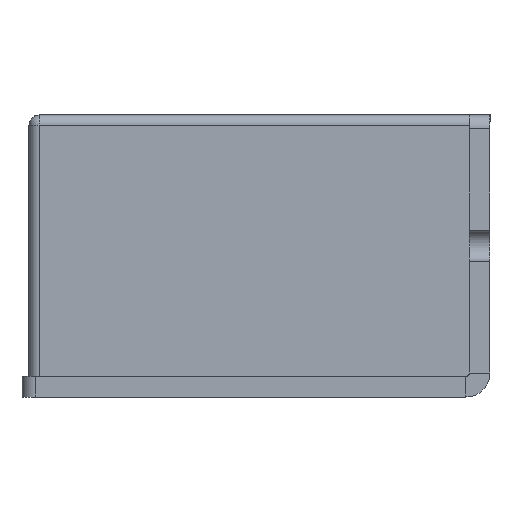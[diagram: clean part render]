
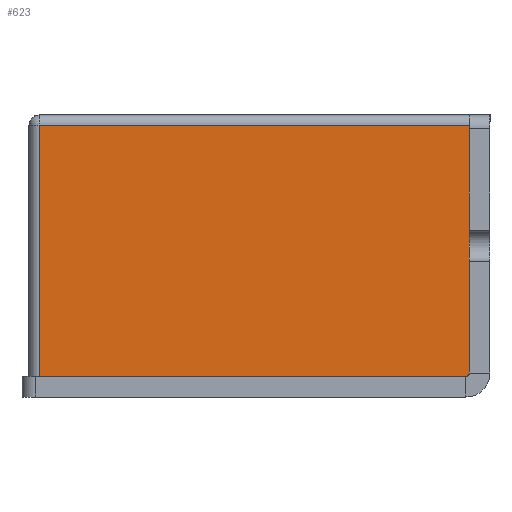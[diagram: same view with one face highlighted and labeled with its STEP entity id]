
A CAD part, front view. The second image highlights one B-rep face of the part: STEP entity #623.
In plain terms, the highlighted planar face has unit normal (0, -1, 0).
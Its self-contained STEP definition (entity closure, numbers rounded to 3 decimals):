
#267 = DIRECTION ( 'NONE',  ( -1., 0., 0. ) ) ;
#346 = EDGE_CURVE ( 'NONE', #1616, #2484, #1106, .T. ) ;
#424 = DIRECTION ( 'NONE',  ( 1., 0., 0. ) ) ;
#492 = DIRECTION ( 'NONE',  ( 0., 1., 0. ) ) ;
#549 = VERTEX_POINT ( 'NONE', #1080 ) ;
#560 = CARTESIAN_POINT ( 'NONE',  ( 1.195, 4.43, 107.99 ) ) ;
#604 = ORIENTED_EDGE ( 'NONE', *, *, #1535, .F. ) ;
#623 = ADVANCED_FACE ( 'NONE', ( #1141 ), #2133, .F. ) ;
#695 = CARTESIAN_POINT ( 'NONE',  ( 63.695, 4.43, 107.99 ) ) ;
#702 = VECTOR ( 'NONE', #424, 1000. ) ;
#896 = CARTESIAN_POINT ( 'NONE',  ( 63.695, 4.43, 109.49 ) ) ;
#1015 = EDGE_CURVE ( 'NONE', #2484, #1641, #1655, .T. ) ;
#1080 = CARTESIAN_POINT ( 'NONE',  ( 63.695, 4.43, 71.49 ) ) ;
#1106 = LINE ( 'NONE', #1739, #2091 ) ;
#1109 = VECTOR ( 'NONE', #2191, 1000. ) ;
#1128 = LINE ( 'NONE', #1683, #702 ) ;
#1141 = FACE_OUTER_BOUND ( 'NONE', #2658, .T. ) ;
#1147 = CARTESIAN_POINT ( 'NONE',  ( 1.195, 4.43, 109.49 ) ) ;
#1285 = LINE ( 'NONE', #896, #1519 ) ;
#1319 = DIRECTION ( 'NONE',  ( -1., 0., 0. ) ) ;
#1441 = EDGE_CURVE ( 'NONE', #1641, #549, #1128, .T. ) ;
#1519 = VECTOR ( 'NONE', #1523, 1000. ) ;
#1523 = DIRECTION ( 'NONE',  ( 0., 0., -1. ) ) ;
#1535 = EDGE_CURVE ( 'NONE', #1616, #549, #1285, .T. ) ;
#1616 = VERTEX_POINT ( 'NONE', #695 ) ;
#1641 = VERTEX_POINT ( 'NONE', #2404 ) ;
#1655 = LINE ( 'NONE', #1147, #1109 ) ;
#1683 = CARTESIAN_POINT ( 'NONE',  ( -0.305, 4.43, 71.49 ) ) ;
#1690 = AXIS2_PLACEMENT_3D ( 'NONE', #2149, #492, #267 ) ;
#1739 = CARTESIAN_POINT ( 'NONE',  ( -0.305, 4.43, 107.99 ) ) ;
#2030 = ORIENTED_EDGE ( 'NONE', *, *, #1015, .T. ) ;
#2091 = VECTOR ( 'NONE', #1319, 1000. ) ;
#2133 = PLANE ( 'NONE',  #1690 ) ;
#2149 = CARTESIAN_POINT ( 'NONE',  ( -0.305, 4.43, 109.49 ) ) ;
#2191 = DIRECTION ( 'NONE',  ( 0., 0., -1. ) ) ;
#2270 = ORIENTED_EDGE ( 'NONE', *, *, #346, .T. ) ;
#2404 = CARTESIAN_POINT ( 'NONE',  ( 1.195, 4.43, 71.49 ) ) ;
#2484 = VERTEX_POINT ( 'NONE', #560 ) ;
#2658 = EDGE_LOOP ( 'NONE', ( #604, #2270, #2030, #2663 ) ) ;
#2663 = ORIENTED_EDGE ( 'NONE', *, *, #1441, .T. ) ;
